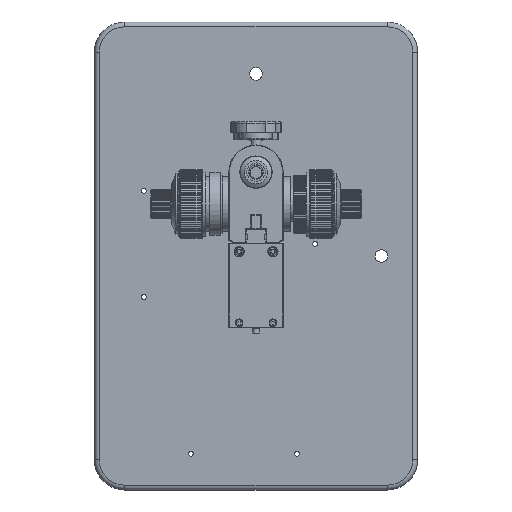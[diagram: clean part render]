
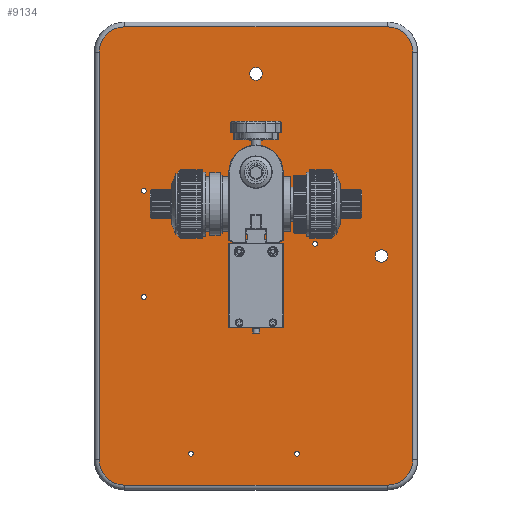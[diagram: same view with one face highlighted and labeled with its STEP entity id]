
A CAD part, top view. The second image highlights one B-rep face of the part: STEP entity #9134.
In plain terms, the highlighted planar face has unit normal (0, 0, 1).
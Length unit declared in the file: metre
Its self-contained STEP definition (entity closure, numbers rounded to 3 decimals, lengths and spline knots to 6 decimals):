
#9134=ADVANCED_FACE('0:56599',(#27042,#27043,#27044,#27045,#27046,#27047,#27048,#27049,#27050,#27051),#27052,.T.);
#10168=EDGE_CURVE('0:57913',#28645,#28645,#28646,.T.);
#10298=EDGE_CURVE('0:57928',#28826,#28826,#28827,.T.);
#10324=EDGE_CURVE('0:57967',#28854,#28861,#28864,.T.);
#10336=EDGE_CURVE('0:57946',#28861,#28879,#28880,.T.);
#10338=EDGE_CURVE('0:57949',#28879,#28882,#28883,.T.);
#10340=EDGE_CURVE('0:57952',#28882,#28885,#28886,.T.);
#10342=EDGE_CURVE('0:57955',#28885,#28888,#28889,.T.);
#10344=EDGE_CURVE('0:57958',#28888,#28891,#28892,.T.);
#10346=EDGE_CURVE('0:57961',#28891,#28894,#28895,.T.);
#10348=EDGE_CURVE('0:57964',#28894,#28854,#28897,.T.);
#10350=EDGE_CURVE('0:57916',#28899,#28899,#28900,.T.);
#10352=EDGE_CURVE('0:57919',#28902,#28902,#28903,.T.);
#10354=EDGE_CURVE('0:57922',#28905,#28905,#28906,.T.);
#10356=EDGE_CURVE('0:57925',#28908,#28908,#28909,.T.);
#10358=EDGE_CURVE('0:57937',#28911,#28911,#28912,.T.);
#10360=EDGE_CURVE('0:57943',#28914,#28914,#28915,.T.);
#10362=EDGE_CURVE('0:57934',#28917,#28917,#28918,.T.);
#27042=FACE_OUTER_BOUND('',#51842,.T.);
#27043=FACE_BOUND('',#51843,.T.);
#27044=FACE_BOUND('',#51844,.T.);
#27045=FACE_BOUND('',#51845,.T.);
#27046=FACE_BOUND('',#51846,.T.);
#27047=FACE_BOUND('',#51847,.T.);
#27048=FACE_BOUND('',#51848,.T.);
#27049=FACE_BOUND('',#51849,.T.);
#27050=FACE_BOUND('',#51850,.T.);
#27051=FACE_BOUND('',#51851,.T.);
#27052=PLANE('',#51852);
#28645=VERTEX_POINT('',#53954);
#28646=CIRCLE('',#53955,0.002);
#28826=VERTEX_POINT('',#54248);
#28827=CIRCLE('',#54249,0.002);
#28854=VERTEX_POINT('',#54293);
#28861=VERTEX_POINT('',#54302);
#28864=CIRCLE('',#54306,0.021);
#28879=VERTEX_POINT('',#54332);
#28880=LINE('',#54333,#54334);
#28882=VERTEX_POINT('',#54337);
#28883=CIRCLE('',#54338,0.021);
#28885=VERTEX_POINT('',#54341);
#28886=LINE('',#54342,#54343);
#28888=VERTEX_POINT('',#54346);
#28889=CIRCLE('',#54347,0.021);
#28891=VERTEX_POINT('',#54350);
#28892=LINE('',#54351,#54352);
#28894=VERTEX_POINT('',#54355);
#28895=CIRCLE('',#54356,0.021);
#28897=LINE('',#54359,#54360);
#28899=VERTEX_POINT('',#54363);
#28900=CIRCLE('',#54364,0.002);
#28902=VERTEX_POINT('',#54367);
#28903=CIRCLE('',#54368,0.002);
#28905=VERTEX_POINT('',#54371);
#28906=CIRCLE('',#54372,0.002);
#28908=VERTEX_POINT('',#54375);
#28909=CIRCLE('',#54376,0.002);
#28911=VERTEX_POINT('',#54379);
#28912=CIRCLE('',#54380,0.00525);
#28914=VERTEX_POINT('',#54383);
#28915=CIRCLE('',#54384,0.00525);
#28917=VERTEX_POINT('',#54387);
#28918=CIRCLE('',#54388,0.00525);
#51842=EDGE_LOOP('',(#126905,#126906,#126907,#126908,#126909,#126910,#126911,#126912));
#51843=EDGE_LOOP('',(#126913));
#51844=EDGE_LOOP('',(#126914));
#51845=EDGE_LOOP('',(#126915));
#51846=EDGE_LOOP('',(#126916));
#51847=EDGE_LOOP('',(#126917));
#51848=EDGE_LOOP('',(#126918));
#51849=EDGE_LOOP('',(#126919));
#51850=EDGE_LOOP('',(#126920));
#51851=EDGE_LOOP('',(#126921));
#51852=AXIS2_PLACEMENT_3D('',#126922,#126923,#126924);
#53954=CARTESIAN_POINT('',(-0.054,-0.166,0.026));
#53955=AXIS2_PLACEMENT_3D('',#129469,#129470,#129471);
#54248=CARTESIAN_POINT('',(0.049,0.008,0.026));
#54249=AXIS2_PLACEMENT_3D('',#129568,#129569,#129570);
#54293=CARTESIAN_POINT('',(0.13,0.169,0.026));
#54302=CARTESIAN_POINT('',(0.109,0.19,0.026));
#54306=AXIS2_PLACEMENT_3D('',#129593,#129594,#129595);
#54332=CARTESIAN_POINT('',(-0.109,0.19,0.026));
#54333=CARTESIAN_POINT('',(0.,0.19,0.026));
#54334=VECTOR('',#129601,1.0);
#54337=CARTESIAN_POINT('',(-0.13,0.169,0.026));
#54338=AXIS2_PLACEMENT_3D('',#129602,#129603,#129604);
#54341=CARTESIAN_POINT('',(-0.13,-0.169,0.026));
#54342=CARTESIAN_POINT('',(-0.13,0.,0.026));
#54343=VECTOR('',#129605,1.0);
#54346=CARTESIAN_POINT('',(-0.109,-0.19,0.026));
#54347=AXIS2_PLACEMENT_3D('',#129606,#129607,#129608);
#54350=CARTESIAN_POINT('',(0.109,-0.19,0.026));
#54351=CARTESIAN_POINT('',(0.,-0.19,0.026));
#54352=VECTOR('',#129609,1.0);
#54355=CARTESIAN_POINT('',(0.13,-0.169,0.026));
#54356=AXIS2_PLACEMENT_3D('',#129610,#129611,#129612);
#54359=CARTESIAN_POINT('',(0.13,0.,0.026));
#54360=VECTOR('',#129613,1.0);
#54363=CARTESIAN_POINT('',(0.034,-0.166,0.026));
#54364=AXIS2_PLACEMENT_3D('',#129614,#129615,#129616);
#54367=CARTESIAN_POINT('',(-0.01,-0.024,0.026));
#54368=AXIS2_PLACEMENT_3D('',#129617,#129618,#129619);
#54371=CARTESIAN_POINT('',(-0.093,-0.036,0.026));
#54372=AXIS2_PLACEMENT_3D('',#129620,#129621,#129622);
#54375=CARTESIAN_POINT('',(-0.093,0.052,0.026));
#54376=AXIS2_PLACEMENT_3D('',#129623,#129624,#129625);
#54379=CARTESIAN_POINT('',(0.,0.06375,0.026));
#54380=AXIS2_PLACEMENT_3D('',#129626,#129627,#129628);
#54383=CARTESIAN_POINT('',(0.,0.14575,0.026));
#54384=AXIS2_PLACEMENT_3D('',#129629,#129630,#129631);
#54387=CARTESIAN_POINT('',(0.104,-0.00525,0.026));
#54388=AXIS2_PLACEMENT_3D('',#129632,#129633,#129634);
#126905=ORIENTED_EDGE('',*,*,#10336,.T.);
#126906=ORIENTED_EDGE('',*,*,#10338,.T.);
#126907=ORIENTED_EDGE('',*,*,#10340,.T.);
#126908=ORIENTED_EDGE('',*,*,#10342,.T.);
#126909=ORIENTED_EDGE('',*,*,#10344,.T.);
#126910=ORIENTED_EDGE('',*,*,#10346,.T.);
#126911=ORIENTED_EDGE('',*,*,#10348,.T.);
#126912=ORIENTED_EDGE('',*,*,#10324,.T.);
#126913=ORIENTED_EDGE('',*,*,#10168,.F.);
#126914=ORIENTED_EDGE('',*,*,#10350,.F.);
#126915=ORIENTED_EDGE('',*,*,#10352,.F.);
#126916=ORIENTED_EDGE('',*,*,#10354,.F.);
#126917=ORIENTED_EDGE('',*,*,#10356,.F.);
#126918=ORIENTED_EDGE('',*,*,#10298,.F.);
#126919=ORIENTED_EDGE('',*,*,#10358,.F.);
#126920=ORIENTED_EDGE('',*,*,#10360,.F.);
#126921=ORIENTED_EDGE('',*,*,#10362,.F.);
#126922=CARTESIAN_POINT('',(0.0,0.0,0.026));
#126923=DIRECTION('',(0.0,0.0,1.0));
#126924=DIRECTION('',(1.0,0.0,0.0));
#129469=CARTESIAN_POINT('',(-0.054,-0.164,0.026));
#129470=DIRECTION('',(0.0,0.0,1.0));
#129471=DIRECTION('',(0.,-1.0,0.0));
#129568=CARTESIAN_POINT('',(0.049,0.01,0.026));
#129569=DIRECTION('',(0.0,0.0,1.0));
#129570=DIRECTION('',(0.,-1.0,0.0));
#129593=CARTESIAN_POINT('',(0.109,0.169,0.026));
#129594=DIRECTION('',(0.0,0.0,1.0));
#129595=DIRECTION('',(0.,-1.0,0.0));
#129601=DIRECTION('',(-1.0,0.,0.0));
#129602=CARTESIAN_POINT('',(-0.109,0.169,0.026));
#129603=DIRECTION('',(0.0,0.0,1.0));
#129604=DIRECTION('',(0.,-1.0,0.0));
#129605=DIRECTION('',(0.,-1.0,0.0));
#129606=CARTESIAN_POINT('',(-0.109,-0.169,0.026));
#129607=DIRECTION('',(0.0,0.0,1.0));
#129608=DIRECTION('',(0.,-1.0,0.0));
#129609=DIRECTION('',(1.0,0.,0.0));
#129610=CARTESIAN_POINT('',(0.109,-0.169,0.026));
#129611=DIRECTION('',(0.0,0.0,1.0));
#129612=DIRECTION('',(0.,-1.0,0.0));
#129613=DIRECTION('',(0.,1.0,0.0));
#129614=CARTESIAN_POINT('',(0.034,-0.164,0.026));
#129615=DIRECTION('',(0.0,0.0,1.0));
#129616=DIRECTION('',(0.,-1.0,0.0));
#129617=CARTESIAN_POINT('',(-0.01,-0.022,0.026));
#129618=DIRECTION('',(0.0,0.0,1.0));
#129619=DIRECTION('',(0.,-1.0,0.0));
#129620=CARTESIAN_POINT('',(-0.093,-0.034,0.026));
#129621=DIRECTION('',(0.0,0.0,1.0));
#129622=DIRECTION('',(0.,-1.0,0.0));
#129623=CARTESIAN_POINT('',(-0.093,0.054,0.026));
#129624=DIRECTION('',(0.0,0.0,1.0));
#129625=DIRECTION('',(0.,-1.0,0.0));
#129626=CARTESIAN_POINT('',(0.,0.069,0.026));
#129627=DIRECTION('',(0.0,0.0,1.0));
#129628=DIRECTION('',(0.,-1.0,0.0));
#129629=CARTESIAN_POINT('',(0.,0.151,0.026));
#129630=DIRECTION('',(0.0,0.0,1.0));
#129631=DIRECTION('',(0.,-1.0,0.0));
#129632=CARTESIAN_POINT('',(0.104,0.,0.026));
#129633=DIRECTION('',(0.0,0.0,1.0));
#129634=DIRECTION('',(0.,-1.0,0.0));
